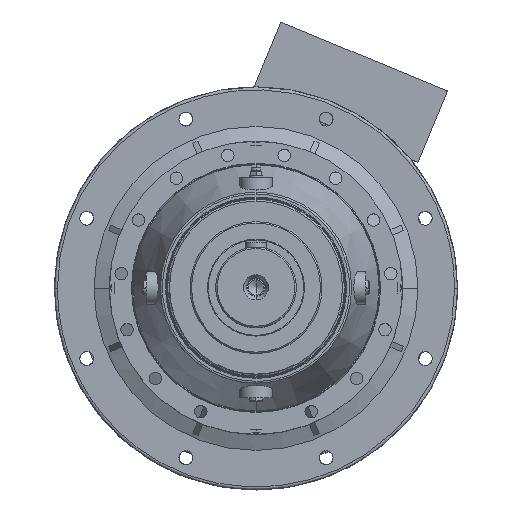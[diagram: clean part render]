
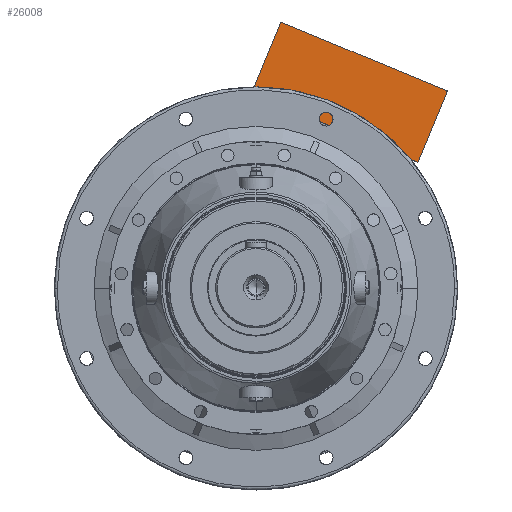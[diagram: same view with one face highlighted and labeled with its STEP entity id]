
A CAD part, top view. The second image highlights one B-rep face of the part: STEP entity #26008.
In plain terms, the highlighted planar face has unit normal (0, 0, 1) as drawn and (0, 0, -1) by its records, which use the part's own axes.
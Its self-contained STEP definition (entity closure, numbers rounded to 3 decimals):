
#26008 = ADVANCED_FACE ( 'NONE', ( #76928 ), #77653, .F. ) ;
#29579 = AXIS2_PLACEMENT_3D ( 'NONE', #77695, #77679, #77688 ) ;
#47142 = EDGE_LOOP ( 'NONE', ( #48819, #48762, #48768, #48802 ) ) ;
#48762 = ORIENTED_EDGE ( 'NONE', *, *, #62443, .F. ) ;
#48768 = ORIENTED_EDGE ( 'NONE', *, *, #62387, .F. ) ;
#48802 = ORIENTED_EDGE ( 'NONE', *, *, #62368, .T. ) ;
#48819 = ORIENTED_EDGE ( 'NONE', *, *, #62527, .T. ) ;
#51221 = CARTESIAN_POINT ( 'NONE',  ( 108., 349., -211.5 ) ) ;
#51224 = CARTESIAN_POINT ( 'NONE',  ( 108., 244., -211.5 ) ) ;
#51265 = CARTESIAN_POINT ( 'NONE',  ( -138., 244., -211.5 ) ) ;
#51304 = CARTESIAN_POINT ( 'NONE',  ( -138., 349., -211.5 ) ) ;
#52131 = CARTESIAN_POINT ( 'NONE',  ( -138., 244., -211.5 ) ) ;
#52484 = DIRECTION ( 'NONE',  ( -1., 0., 0. ) ) ;
#53435 = CARTESIAN_POINT ( 'NONE',  ( 108., 349., -211.5 ) ) ;
#53480 = DIRECTION ( 'NONE',  ( 0., 1., 0. ) ) ;
#53566 = CARTESIAN_POINT ( 'NONE',  ( 0., 349., -211.5 ) ) ;
#53686 = DIRECTION ( 'NONE',  ( -1., 0., 0. ) ) ;
#53923 = CARTESIAN_POINT ( 'NONE',  ( -138., 349., -211.5 ) ) ;
#53936 = DIRECTION ( 'NONE',  ( 0., 1., 0. ) ) ;
#58460 = VERTEX_POINT ( 'NONE', #51224 ) ;
#58500 = VERTEX_POINT ( 'NONE', #51221 ) ;
#58529 = VERTEX_POINT ( 'NONE', #51265 ) ;
#58546 = VERTEX_POINT ( 'NONE', #51304 ) ;
#62368 = EDGE_CURVE ( 'NONE', #58460, #58529, #82753, .T. ) ;
#62387 = EDGE_CURVE ( 'NONE', #58460, #58500, #82738, .T. ) ;
#62443 = EDGE_CURVE ( 'NONE', #58500, #58546, #82806, .T. ) ;
#62527 = EDGE_CURVE ( 'NONE', #58529, #58546, #82877, .T. ) ;
#76928 = FACE_OUTER_BOUND ( 'NONE', #47142, .T. ) ;
#77653 = PLANE ( 'NONE',  #29579 ) ;
#77679 = DIRECTION ( 'NONE',  ( 0., 0., 1. ) ) ;
#77688 = DIRECTION ( 'NONE',  ( 1., 0., 0. ) ) ;
#77695 = CARTESIAN_POINT ( 'NONE',  ( 0., 349., -211.5 ) ) ;
#82694 = VECTOR ( 'NONE', #52484, 1000. ) ;
#82712 = VECTOR ( 'NONE', #53480, 1000. ) ;
#82738 = LINE ( 'NONE', #53435, #82712 ) ;
#82753 = LINE ( 'NONE', #52131, #82694 ) ;
#82787 = VECTOR ( 'NONE', #53686, 1000. ) ;
#82806 = LINE ( 'NONE', #53566, #82787 ) ;
#82854 = VECTOR ( 'NONE', #53936, 1000. ) ;
#82877 = LINE ( 'NONE', #53923, #82854 ) ;
